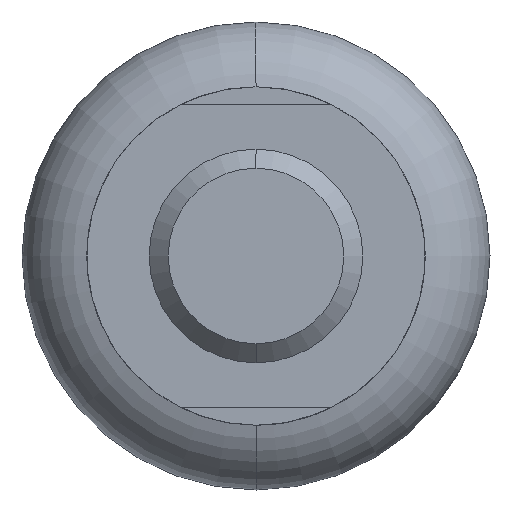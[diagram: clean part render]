
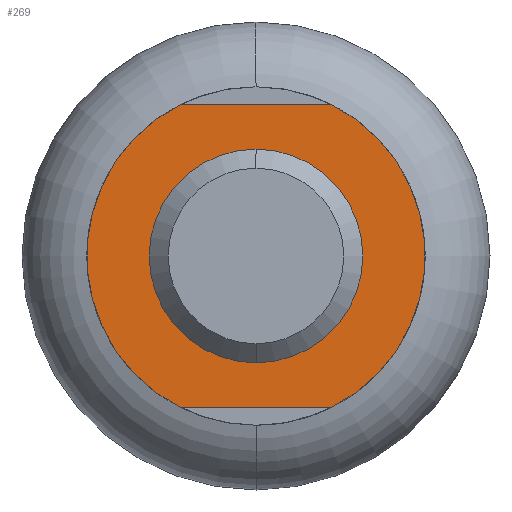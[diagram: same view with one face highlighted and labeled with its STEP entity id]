
A CAD part, front view. The second image highlights one B-rep face of the part: STEP entity #269.
In plain terms, the highlighted planar face has unit normal (0, -1, 0).
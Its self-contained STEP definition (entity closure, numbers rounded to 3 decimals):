
#167=CARTESIAN_POINT('Vertex',(0.,18.,6.)) ;
#174=CARTESIAN_POINT('Vertex',(0.,18.,-6.)) ;
#177=CARTESIAN_POINT('Axis2P3D Location',(0.,18.,0.)) ;
#181=CARTESIAN_POINT('Vertex',(6.,18.,0.)) ;
#184=CARTESIAN_POINT('Axis2P3D Location',(0.,18.,0.)) ;
#203=CARTESIAN_POINT('Axis2P3D Location',(0.,18.,0.)) ;
#207=CARTESIAN_POINT('Vertex',(-6.,18.,0.)) ;
#210=CARTESIAN_POINT('Axis2P3D Location',(0.,18.,0.)) ;
#224=CARTESIAN_POINT('Axis2P3D Location',(-6.,18.,0.)) ;
#229=CARTESIAN_POINT('Axis2P3D Location',(0.,18.,0.)) ;
#233=CARTESIAN_POINT('Vertex',(-4.243,18.,-8.5)) ;
#235=CARTESIAN_POINT('Vertex',(-4.243,18.,8.5)) ;
#238=CARTESIAN_POINT('Line Origine',(0.,18.,-8.5)) ;
#242=CARTESIAN_POINT('Vertex',(4.243,18.,-8.5)) ;
#245=CARTESIAN_POINT('Axis2P3D Location',(0.,18.,0.)) ;
#249=CARTESIAN_POINT('Vertex',(4.243,18.,8.5)) ;
#252=CARTESIAN_POINT('Line Origine',(0.,18.,8.5)) ;
#178=DIRECTION('Axis2P3D Direction',(0.,-1.,0.)) ;
#185=DIRECTION('Axis2P3D Direction',(0.,-1.,0.)) ;
#204=DIRECTION('Axis2P3D Direction',(0.,-1.,0.)) ;
#211=DIRECTION('Axis2P3D Direction',(0.,-1.,0.)) ;
#225=DIRECTION('Axis2P3D Direction',(-0.,1.,0.)) ;
#226=DIRECTION('Axis2P3D XDirection',(0.,0.,1.)) ;
#230=DIRECTION('Axis2P3D Direction',(-0.,1.,0.)) ;
#239=DIRECTION('Vector Direction',(1.,0.,0.)) ;
#246=DIRECTION('Axis2P3D Direction',(-0.,1.,0.)) ;
#253=DIRECTION('Vector Direction',(-1.,0.,0.)) ;
#179=AXIS2_PLACEMENT_3D('Circle Axis2P3D',#177,#178,$) ;
#186=AXIS2_PLACEMENT_3D('Circle Axis2P3D',#184,#185,$) ;
#205=AXIS2_PLACEMENT_3D('Circle Axis2P3D',#203,#204,$) ;
#212=AXIS2_PLACEMENT_3D('Circle Axis2P3D',#210,#211,$) ;
#227=AXIS2_PLACEMENT_3D('Plane Axis2P3D',#224,#225,#226) ;
#231=AXIS2_PLACEMENT_3D('Circle Axis2P3D',#229,#230,$) ;
#247=AXIS2_PLACEMENT_3D('Circle Axis2P3D',#245,#246,$) ;
#258=ORIENTED_EDGE('',*,*,#237,.F.) ;
#259=ORIENTED_EDGE('',*,*,#244,.T.) ;
#260=ORIENTED_EDGE('',*,*,#251,.F.) ;
#261=ORIENTED_EDGE('',*,*,#256,.T.) ;
#264=ORIENTED_EDGE('',*,*,#183,.T.) ;
#265=ORIENTED_EDGE('',*,*,#214,.T.) ;
#266=ORIENTED_EDGE('',*,*,#209,.T.) ;
#267=ORIENTED_EDGE('',*,*,#188,.T.) ;
#268=FACE_BOUND('',#263,.T.) ;
#240=VECTOR('Line Direction',#239,1.) ;
#254=VECTOR('Line Direction',#253,1.) ;
#269=ADVANCED_FACE('384F-1',(#262,#268),#228,.F.) ;
#180=CIRCLE('generated circle',#179,6.) ;
#187=CIRCLE('generated circle',#186,6.) ;
#206=CIRCLE('generated circle',#205,6.) ;
#213=CIRCLE('generated circle',#212,6.) ;
#232=CIRCLE('generated circle',#231,9.5) ;
#248=CIRCLE('generated circle',#247,9.5) ;
#183=EDGE_CURVE('',#182,#175,#180,.F.) ;
#188=EDGE_CURVE('',#168,#182,#187,.F.) ;
#209=EDGE_CURVE('',#208,#168,#206,.F.) ;
#214=EDGE_CURVE('',#175,#208,#213,.F.) ;
#237=EDGE_CURVE('',#234,#236,#232,.T.) ;
#244=EDGE_CURVE('',#234,#243,#241,.T.) ;
#251=EDGE_CURVE('',#250,#243,#248,.T.) ;
#256=EDGE_CURVE('',#250,#236,#255,.T.) ;
#257=EDGE_LOOP('',(#258,#259,#260,#261)) ;
#263=EDGE_LOOP('',(#264,#265,#266,#267)) ;
#262=FACE_OUTER_BOUND('',#257,.T.) ;
#241=LINE('Line',#238,#240) ;
#255=LINE('Line',#252,#254) ;
#228=PLANE('Plane',#227) ;
#168=VERTEX_POINT('',#167) ;
#175=VERTEX_POINT('',#174) ;
#182=VERTEX_POINT('',#181) ;
#208=VERTEX_POINT('',#207) ;
#234=VERTEX_POINT('',#233) ;
#236=VERTEX_POINT('',#235) ;
#243=VERTEX_POINT('',#242) ;
#250=VERTEX_POINT('',#249) ;
